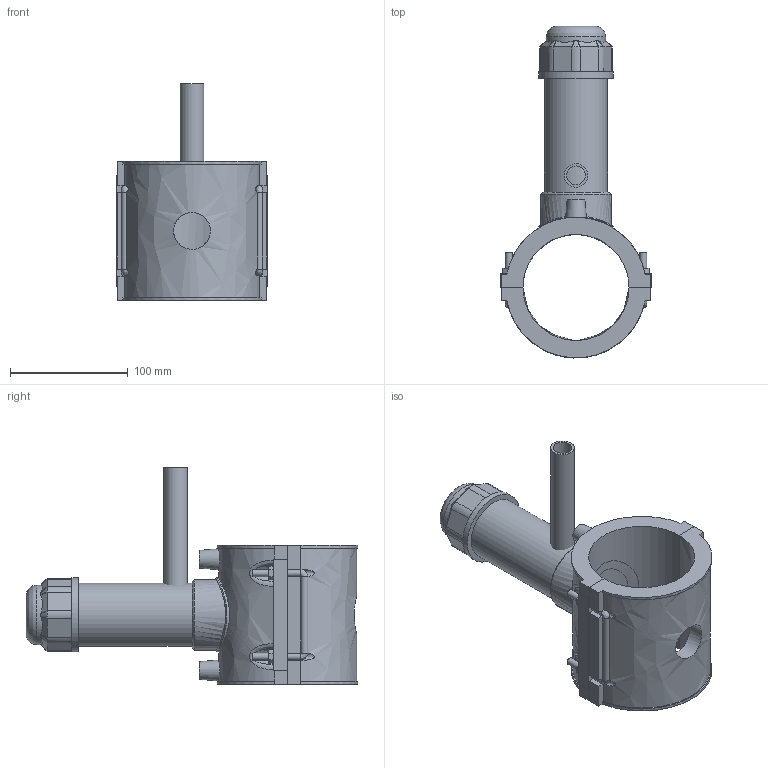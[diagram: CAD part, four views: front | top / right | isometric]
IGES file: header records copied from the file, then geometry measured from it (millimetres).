
Global section: file name: 4963P4090020; native system: Autodesk Inventor 2019; preprocessor: unknown; author: KIM; date: 20220317.112645; units: millimetre
Bounding box: 128 x 281.64 x 184 mm (x, y, z)
Volume: 797228.6 mm3; surface area: 176655.3 mm2
Topology: 3 solids, 3 shells, 218 faces, 555 edges, 360 vertices
Faces by surface type: bspline 218
